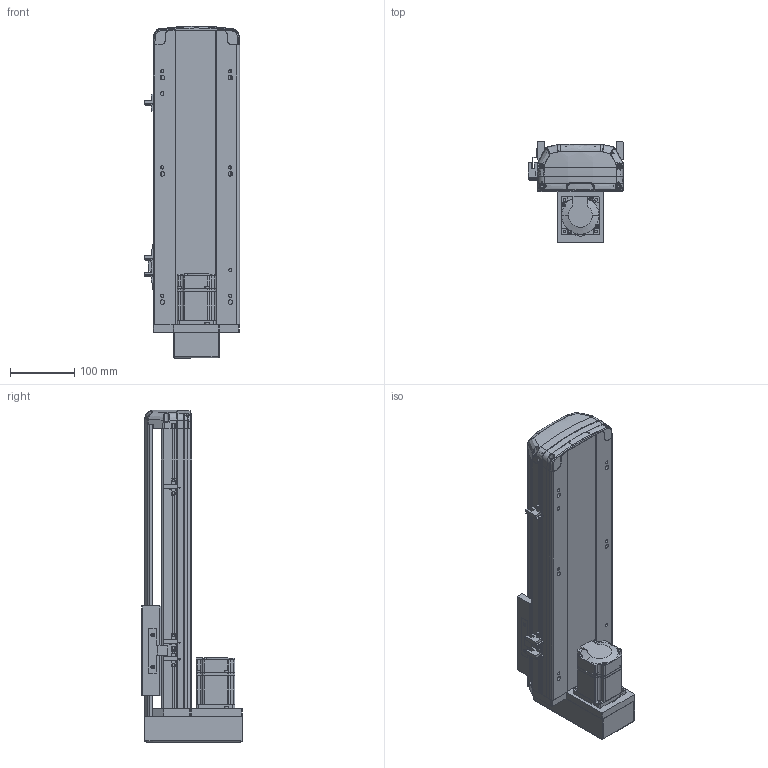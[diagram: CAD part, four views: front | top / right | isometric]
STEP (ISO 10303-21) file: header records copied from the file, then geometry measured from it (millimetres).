
FILE_DESCRIPTION (( 'STEP AP214' ), '1' );
FILE_NAME ('RTH14-XX-250-M-M20-C4.STEP', '2025-10-25T02:47:11', ( 'Microsoft' ), ( 'Microsoft' ), 'SwSTEP 2.0', 'SolidWorks 2018', '' );
FILE_SCHEMA (( 'AUTOMOTIVE_DESIGN' ));
Length unit declared in the file: millimetre
Products named in the file (10): N_RTH14-M-011P菁釱^RTH14-XX-XX-M-M20-C4; N_RTH14-M-007P奻裔^RTH14-XX-XX-M-M20-C4; N_MSMD022P1AA_200W^RTH14-XX-XX-M-M20-C4; N_RTH13-M-008萇儂啣狟殏^RTH14-XX-XX-M-M20-C4; N_RTH14-R-004-SFSR16賑釱^RTH14-XX-XX-M-M20-C4; RTH14-XX-250-M-M20-C4; N_OMRON EE-SX672 传感器^RTH14-XX-XX-M-M20-C4; N_RTH13-M-018裔赽^RTH14-XX-XX-M-M20-C4; N_RTH13-L-012感应片（外置）^RTH14-XX-XX-M-M20-C4; N_RTH14-GY-001P^RTH14-XX-XX-M-M20-C4
Assembly tree (11 placements, depth 2):
  RTH14-XX-250-M-M20-C4
    N_RTH14-M-011P菁釱^RTH14-XX-XX-M-M20-C4
    N_RTH14-M-007P奻裔^RTH14-XX-XX-M-M20-C4
    N_MSMD022P1AA_200W^RTH14-XX-XX-M-M20-C4
    N_RTH13-M-008萇儂啣狟殏^RTH14-XX-XX-M-M20-C4
    N_RTH13-M-018裔赽^RTH14-XX-XX-M-M20-C4
    N_RTH13-L-012感应片（外置）^RTH14-XX-XX-M-M20-C4
    N_OMRON EE-SX672 传感器^RTH14-XX-XX-M-M20-C4  x3
    N_RTH14-R-004-SFSR16賑釱^RTH14-XX-XX-M-M20-C4
    N_RTH14-GY-001P^RTH14-XX-XX-M-M20-C4
Bounding box: 148.5 x 156.5 x 517.49 mm (x, y, z)
Volume: 2604917.6 mm3; surface area: 613478.2 mm2
Topology: 11 solids, 11 shells, 1847 faces, 5156 edges, 3376 vertices
Faces by surface type: plane 991, cylinder 462, bspline 345, cone 45, torus 4
Entity records: 56114 total; most frequent: CARTESIAN_POINT 22771, ORIENTED_EDGE 7380, DIRECTION 5867, EDGE_CURVE 3690, VERTEX_POINT 2412, VECTOR 2145, LINE 2145, AXIS2_PLACEMENT_3D 1861
